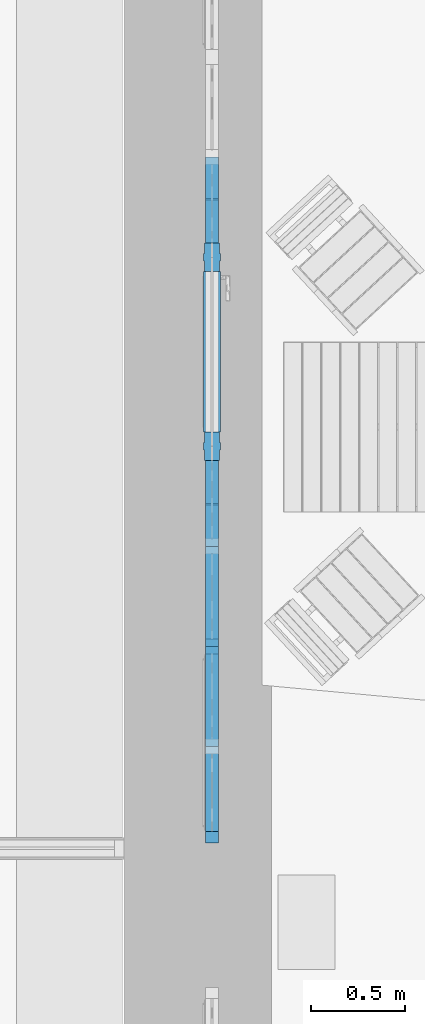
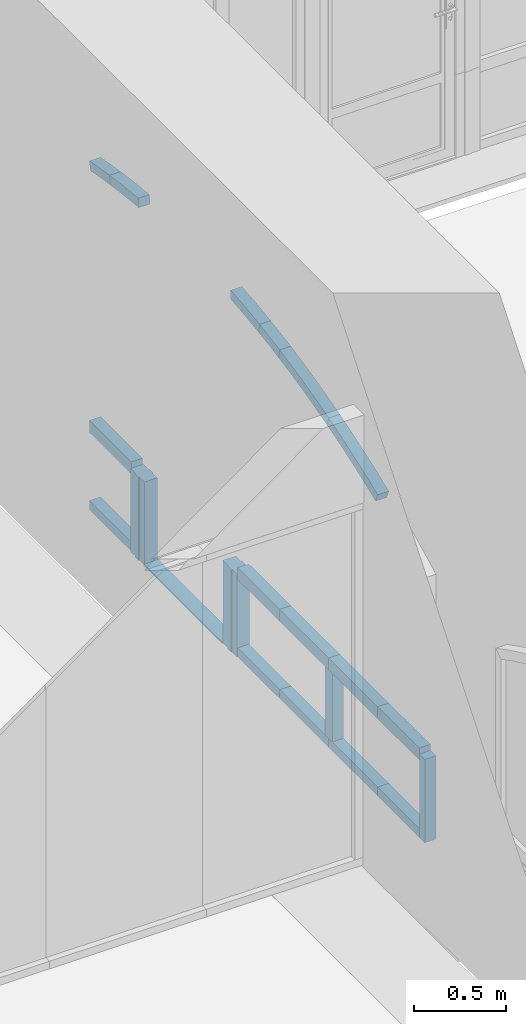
# One storey, part 46 of 88: 21 members, 1 element without a shape of its own.
"""IFC2X3 building model written with IfcOpenShell, lengths in millimetres."""

from ifc_helpers import new_model, entity, si_unit, converted_unit, derived_unit, direction, frame, frame_2d, origin, place, context, subcontext, project, spatial, polyline, circle_curve, parameter, trimmed, segment, composite_curve, rectangle, outline, extrude, source, transform, mapped, material, type_object, type_shapes, element, aggregate, save


model = new_model("IFC2X3")

# Units and contexts
model_context = context("Model", 3, precision=0.01, world=origin(), true_north=direction((6.123031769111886e-17, 1.0)))
body_context = subcontext(model_context, "Body", "Model", "MODEL_VIEW")
ifc_project = project(units=[si_unit("LENGTHUNIT", "METRE", prefix="MILLI"), si_unit("AREAUNIT", "SQUARE_METRE"), si_unit("VOLUMEUNIT", "CUBIC_METRE"), converted_unit("PLANEANGLEUNIT", "DEGREE", entity("IfcPlaneAngleMeasure", 0.017453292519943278), si_unit("PLANEANGLEUNIT", "RADIAN"), dimensions=[0, 0, 0, 0, 0, 0, 0]), si_unit("MASSUNIT", "GRAM", prefix="KILO"), derived_unit("MASSDENSITYUNIT", [(si_unit("MASSUNIT", "GRAM", prefix="KILO"), 1), (si_unit("LENGTHUNIT", "METRE"), -3)]), derived_unit("IONCONCENTRATIONUNIT", [(si_unit("MASSUNIT", "GRAM", prefix="KILO"), 1), (si_unit("LENGTHUNIT", "METRE"), -3)]), derived_unit("MOMENTOFINERTIAUNIT", [(si_unit("LENGTHUNIT", "METRE"), 4)]), si_unit("TIMEUNIT", "SECOND"), si_unit("FREQUENCYUNIT", "HERTZ"), si_unit("THERMODYNAMICTEMPERATUREUNIT", "DEGREE_CELSIUS"), derived_unit("THERMALTRANSMITTANCEUNIT", [(si_unit("MASSUNIT", "GRAM", prefix="KILO"), 1), (si_unit("THERMODYNAMICTEMPERATUREUNIT", "KELVIN"), -1), (si_unit("TIMEUNIT", "SECOND"), -3)]), derived_unit("THERMALCONDUCTANCEUNIT", [(si_unit("MASSUNIT", "GRAM", prefix="KILO"), 1), (si_unit("THERMODYNAMICTEMPERATUREUNIT", "KELVIN"), -1), (si_unit("TIMEUNIT", "SECOND"), -3), (si_unit("LENGTHUNIT", "METRE"), 1)]), derived_unit("VOLUMETRICFLOWRATEUNIT", [(si_unit("LENGTHUNIT", "METRE", prefix="DECI"), 3), (si_unit("TIMEUNIT", "SECOND"), -1)]), derived_unit("MASSFLOWRATEUNIT", [(si_unit("MASSUNIT", "GRAM", prefix="KILO"), 1), (si_unit("TIMEUNIT", "SECOND"), -1)]), derived_unit("ROTATIONALFREQUENCYUNIT", [(si_unit("TIMEUNIT", "SECOND"), -1)]), si_unit("ELECTRICCURRENTUNIT", "AMPERE"), si_unit("ELECTRICVOLTAGEUNIT", "VOLT"), si_unit("POWERUNIT", "WATT"), si_unit("FORCEUNIT", "NEWTON", prefix="KILO"), si_unit("ILLUMINANCEUNIT", "LUX"), si_unit("LUMINOUSFLUXUNIT", "LUMEN"), si_unit("LUMINOUSINTENSITYUNIT", "CANDELA"), si_unit("ENERGYUNIT", "JOULE"), derived_unit("USERDEFINED", [(si_unit("MASSUNIT", "GRAM", prefix="KILO"), -1), (si_unit("LENGTHUNIT", "METRE"), -2), (si_unit("TIMEUNIT", "SECOND"), 3), (si_unit("LUMINOUSFLUXUNIT", "LUMEN"), 1)]), derived_unit("USERDEFINED", [(si_unit("MASSUNIT", "GRAM", prefix="KILO"), 1), (si_unit("TIMEUNIT", "SECOND"), -3), (si_unit("LENGTHUNIT", "METRE"), 3), (si_unit("ELECTRICCURRENTUNIT", "AMPERE"), -2)]), derived_unit("SOUNDPOWERUNIT", [(si_unit("MASSUNIT", "GRAM", prefix="KILO"), 1), (si_unit("TIMEUNIT", "SECOND"), -3), (si_unit("LENGTHUNIT", "METRE"), 2)]), derived_unit("SOUNDPRESSUREUNIT", [(si_unit("MASSUNIT", "GRAM", prefix="KILO"), 1), (si_unit("LENGTHUNIT", "METRE"), -1), (si_unit("TIMEUNIT", "SECOND"), -2)]), derived_unit("LINEARVELOCITYUNIT", [(si_unit("LENGTHUNIT", "METRE"), 1), (si_unit("TIMEUNIT", "SECOND"), -1)]), si_unit("PRESSUREUNIT", "PASCAL"), derived_unit("USERDEFINED", [(si_unit("MASSUNIT", "GRAM", prefix="KILO"), 1), (si_unit("LENGTHUNIT", "METRE"), -2), (si_unit("TIMEUNIT", "SECOND"), -2)]), derived_unit("LINEARFORCEUNIT", [(si_unit("MASSUNIT", "GRAM", prefix="KILO"), 1), (si_unit("TIMEUNIT", "SECOND"), -2)]), derived_unit("PLANARFORCEUNIT", [(si_unit("MASSUNIT", "GRAM", prefix="KILO"), 1), (si_unit("LENGTHUNIT", "METRE"), -1), (si_unit("TIMEUNIT", "SECOND"), -2)]), derived_unit("SPECIFICHEATCAPACITYUNIT", [(si_unit("THERMODYNAMICTEMPERATUREUNIT", "KELVIN"), -1), (si_unit("LENGTHUNIT", "METRE"), 2), (si_unit("TIMEUNIT", "SECOND"), -2)]), derived_unit("HEATFLUXDENSITYUNIT", [(si_unit("MASSUNIT", "GRAM", prefix="KILO"), 1), (si_unit("TIMEUNIT", "SECOND"), -3)]), derived_unit("HEATINGVALUEUNIT", [(si_unit("LENGTHUNIT", "METRE"), 2), (si_unit("TIMEUNIT", "SECOND"), -2)]), derived_unit("VAPORPERMEABILITYUNIT", [(si_unit("LENGTHUNIT", "METRE"), -1), (si_unit("TIMEUNIT", "SECOND"), 1)]), derived_unit("DYNAMICVISCOSITYUNIT", [(si_unit("MASSUNIT", "GRAM", prefix="KILO"), 1), (si_unit("TIMEUNIT", "SECOND"), -1), (si_unit("LENGTHUNIT", "METRE"), -1)]), derived_unit("THERMALEXPANSIONCOEFFICIENTUNIT", [(si_unit("THERMODYNAMICTEMPERATUREUNIT", "KELVIN"), -1)]), derived_unit("MODULUSOFELASTICITYUNIT", [(si_unit("MASSUNIT", "GRAM", prefix="KILO"), 1), (si_unit("LENGTHUNIT", "METRE"), -1), (si_unit("TIMEUNIT", "SECOND"), -2)]), derived_unit("ISOTHERMALMOISTURECAPACITYUNIT", [(si_unit("MASSUNIT", "GRAM", prefix="KILO"), -1), (si_unit("LENGTHUNIT", "METRE"), 3)]), derived_unit("MOISTUREDIFFUSIVITYUNIT", [(si_unit("TIMEUNIT", "SECOND"), -1), (si_unit("LENGTHUNIT", "METRE"), 2)]), derived_unit("MASSPERLENGTHUNIT", [(si_unit("MASSUNIT", "GRAM", prefix="KILO"), 1), (si_unit("LENGTHUNIT", "METRE"), -1)]), derived_unit("THERMALRESISTANCEUNIT", [(si_unit("MASSUNIT", "GRAM", prefix="KILO"), -1), (si_unit("TIMEUNIT", "SECOND"), 3), (si_unit("THERMODYNAMICTEMPERATUREUNIT", "KELVIN"), 1)]), derived_unit("ACCELERATIONUNIT", [(si_unit("LENGTHUNIT", "METRE"), 1), (si_unit("TIMEUNIT", "SECOND"), -2)]), derived_unit("ANGULARVELOCITYUNIT", [(si_unit("TIMEUNIT", "SECOND"), -1), (si_unit("PLANEANGLEUNIT", "RADIAN"), 1)]), derived_unit("LINEARSTIFFNESSUNIT", [(si_unit("MASSUNIT", "GRAM", prefix="KILO"), 1), (si_unit("TIMEUNIT", "SECOND"), -2)]), derived_unit("WARPINGCONSTANTUNIT", [(si_unit("LENGTHUNIT", "METRE"), 6)]), derived_unit("LINEARMOMENTUNIT", [(si_unit("MASSUNIT", "GRAM", prefix="KILO"), 1), (si_unit("LENGTHUNIT", "METRE"), 1), (si_unit("TIMEUNIT", "SECOND"), -2)]), derived_unit("TORQUEUNIT", [(si_unit("MASSUNIT", "GRAM", prefix="KILO"), 1), (si_unit("LENGTHUNIT", "METRE"), 2), (si_unit("TIMEUNIT", "SECOND"), -2)])], contexts=[model_context])

# Site, building, storey
site_placement = place(None, origin())
site = spatial("IfcSite", under=ifc_project, at=site_placement, Name="Default", CompositionType="ELEMENT")
building_placement = place(site_placement, origin())
building = spatial("IfcBuilding", under=site, at=building_placement, Name="Eesti Rahvusraamatukogu hoone renoveerimise projekteerimistööd", CompositionType="ELEMENT")
storey_placement = place(building_placement, origin())
storey = spatial("IfcBuildingStorey", under=building, at=storey_placement, Name="1. korrus", CompositionType="ELEMENT", Elevation=0.0)

# Curtain wall, members
curtain_wall_type = type_object("IfcCurtainWallType", Name="Curtain Wall:Ak-05", PredefinedType="NOTDEFINED")
curtain_wall_placement = place(storey_placement, origin())
curtain_wall = element("IfcCurtainWall", 1, at=curtain_wall_placement, inside=storey, type_object=curtain_wall_type, Name="Curtain Wall:Ak-05", ObjectType="Curtain Wall:Ak-05")
ifc_material_1 = material(Name="LUMION_dark steel window frames")
member_type_1 = type_object("IfcMemberType", Name="Rectangular Mullion:NEW 60x70mm", PredefinedType="MULLION", material=ifc_material_1)
shared_shape_1 = source(origin(), body_context, "Body", "SweptSolid", [
    extrude(outline(composite_curve([segment(polyline([(-44.19959331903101, -278.92780712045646), (15.800406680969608, -278.9278071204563)]), True, "CONTINUOUS"), segment(trimmed(circle_curve(frame_2d((5479.080973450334, -278.9278071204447), x_axis=(-0.9948301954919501, 0.10155236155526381)), 5463.280566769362), [parameter(3.5622212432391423e-13)], [parameter(5.828569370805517)], True, "PARAMETER"), False, "CONTINUOUS"), segment(polyline([(44.04449918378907, 275.8812362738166), (-15.645312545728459, 281.97437796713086)]), True, "CONTINUOUS"), segment(trimmed(circle_curve(frame_2d((5479.080973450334, -278.9278071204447), x_axis=(-0.9948301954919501, 0.10155236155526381)), 5523.280566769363), [parameter(3.5622212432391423e-13)], [parameter(5.828569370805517)], True, "PARAMETER"), True, "CONTINUOUS")], self_intersect=False)), frame((-44.19959331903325, -35.0, -278.9278071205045), z_axis=(0.0, 1.0, 0.0), x_axis=(-0.9948301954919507, 0.0, 0.10155236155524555)), (0.0, 0.0, 1.0), 69.99999999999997),
])
type_shapes(member_type_1, [shared_shape_1])
member_1_placement = place(curtain_wall_placement, frame((-42905.0, 49300.0, 1939.3047106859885), z_axis=(0.0, -0.9256428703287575, -0.3783983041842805), x_axis=(0.0, -0.3783983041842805, 0.9256428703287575)))
member_1 = element("IfcMember", 2, at=member_1_placement, type_object=member_type_1, material=ifc_material_1, Name="Rectangular Mullion:NEW 60x70mm", ObjectType="Rectangular Mullion:NEW 60x70mm", context=body_context, shape_type="MappedRepresentation", body=[
    mapped(shared_shape_1, transform((0.0, 0.0, 0.0), scale=1.0)),
])
member_type_2 = type_object("IfcMemberType", Name="Rectangular Mullion:NEW 60x70mm", PredefinedType="MULLION", material=ifc_material_1)
shared_shape_2 = source(origin(), body_context, "Body", "SweptSolid", [
    extrude(outline(composite_curve([segment(polyline([(-43.38278695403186, -270.80676601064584), (16.61721304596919, -270.80676601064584)]), True, "CONTINUOUS"), segment(trimmed(circle_curve(frame_2d((5479.897779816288, -270.80676601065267), x_axis=(-0.9951275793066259, 0.09859564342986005)), 5463.280566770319), [parameter(3.5622212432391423e-13)], [parameter(5.658307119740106)], True, "PARAMETER"), False, "CONTINUOUS"), segment(polyline([(43.23661433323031, 267.8488967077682), (-16.471040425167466, 273.7646353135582)]), True, "CONTINUOUS"), segment(trimmed(circle_curve(frame_2d((5479.897779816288, -270.80676601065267), x_axis=(-0.9951275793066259, 0.09859564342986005)), 5523.280566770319), [parameter(3.5622212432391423e-13)], [parameter(5.658307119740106)], True, "PARAMETER"), True, "CONTINUOUS")], self_intersect=False)), frame((-43.382786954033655, -35.0, -270.8067660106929), z_axis=(0.0, 1.0, 0.0), x_axis=(-0.9951275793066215, 0.0, 0.09859564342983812)), (0.0, 0.0, 1.0), 69.99999999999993),
])
type_shapes(member_type_2, [shared_shape_2])
member_2_placement = place(curtain_wall_placement, frame((-42905.0, 49830.0, 2125.118079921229), z_axis=(0.0, -0.9592847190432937, -0.2824408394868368), x_axis=(0.0, -0.2824408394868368, 0.9592847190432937)))
member_2 = element("IfcMember", 3, at=member_2_placement, type_object=member_type_2, material=ifc_material_1, Name="Rectangular Mullion:NEW 60x70mm", ObjectType="Rectangular Mullion:NEW 60x70mm", context=body_context, shape_type="MappedRepresentation", body=[
    mapped(shared_shape_2, transform((0.0, 0.0, 0.0), scale=1.0)),
])
member_type_3 = type_object("IfcMemberType", Name="Rectangular Mullion:NEW 60x70mm", PredefinedType="MULLION", material=ifc_material_1)
shared_shape_3 = source(origin(), body_context, "Body", "SweptSolid", [
    extrude(outline(composite_curve([segment(polyline([(-32.20246871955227, -109.97239538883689), (27.79753128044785, -109.97239538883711)]), True, "CONTINUOUS"), segment(trimmed(circle_curve(frame_2d((5491.078098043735, -109.97239538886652), x_axis=(-0.9991981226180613, 0.040038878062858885)), 5463.280566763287), [parameter(3.5622212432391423e-13)], [parameter(2.2946721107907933)], True, "PARAMETER"), False, "CONTINUOUS"), segment(polyline([(32.17841239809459, 108.77122904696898), (-27.7734749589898, 111.17356173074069)]), True, "CONTINUOUS"), segment(trimmed(circle_curve(frame_2d((5491.078098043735, -109.97239538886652), x_axis=(-0.9991981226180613, 0.040038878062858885)), 5523.280566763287), [parameter(3.5622212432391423e-13)], [parameter(2.2946721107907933)], True, "PARAMETER"), True, "CONTINUOUS")], self_intersect=False)), frame((-32.202468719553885, -35.0, -109.9723953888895), z_axis=(0.0, 1.0, 0.0), x_axis=(-0.9991981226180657, 0.0, 0.04003887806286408)), (0.0, 0.0, 1.0), 69.99999999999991),
])
type_shapes(member_type_3, [shared_shape_3])
member_3_placement = place(curtain_wall_placement, frame((-42905.0, 50360.0, 2253.111256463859), z_axis=(0.0, -0.982458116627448, -0.18648337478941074), x_axis=(0.0, -0.18648337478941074, 0.982458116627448)))
member_3 = element("IfcMember", 4, at=member_3_placement, type_object=member_type_3, material=ifc_material_1, Name="Rectangular Mullion:NEW 60x70mm", ObjectType="Rectangular Mullion:NEW 60x70mm", context=body_context, shape_type="MappedRepresentation", body=[
    mapped(shared_shape_3, transform((0.0, 0.0, 0.0), scale=1.0)),
])
member_type_4 = type_object("IfcMemberType", Name="Rectangular Mullion:NEW 60x70mm", PredefinedType="MULLION", material=ifc_material_1)
shared_shape_4 = source(origin(), body_context, "Body", "SweptSolid", [
    extrude(outline(composite_curve([segment(polyline([(-34.44225079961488, -156.14991642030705), (25.5577492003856, -156.14991642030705)]), True, "CONTINUOUS"), segment(trimmed(circle_curve(frame_2d((5488.8383159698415, -156.14991642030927), x_axis=(-0.9983826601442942, 0.05685124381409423)), 5463.280566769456), [parameter(3.5622212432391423e-13)], [parameter(3.2590935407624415)], True, "PARAMETER"), False, "CONTINUOUS"), segment(polyline([(34.393730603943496, 154.44437910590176), (-25.509229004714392, 157.8554537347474)]), True, "CONTINUOUS"), segment(trimmed(circle_curve(frame_2d((5488.8383159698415, -156.14991642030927), x_axis=(-0.9983826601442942, 0.05685124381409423)), 5523.280566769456), [parameter(3.5622212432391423e-13)], [parameter(3.2590935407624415)], True, "PARAMETER"), True, "CONTINUOUS")], self_intersect=False)), frame((-34.44225079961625, -35.0, -156.14991642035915), z_axis=(0.0, 1.0, 0.0), x_axis=(-0.9983826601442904, 0.0, 0.056851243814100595)), (0.0, 0.0, 1.0), 69.99999999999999),
])
type_shapes(member_type_4, [shared_shape_4])
member_4_placement = place(curtain_wall_placement, frame((-42905.0, 51890.0, 2327.3219656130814), z_axis=(0.0, -0.9958941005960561, 0.09052591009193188), x_axis=(0.0, 0.09052591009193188, 0.9958941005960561)))
member_4 = element("IfcMember", 5, at=member_4_placement, type_object=member_type_4, material=ifc_material_1, Name="Rectangular Mullion:NEW 60x70mm", ObjectType="Rectangular Mullion:NEW 60x70mm", context=body_context, shape_type="MappedRepresentation", body=[
    mapped(shared_shape_4, transform((0.0, 0.0, 0.0), scale=1.0)),
])
member_type_5 = type_object("IfcMemberType", Name="Rectangular Mullion:NEW 150x90mm", PredefinedType="MULLION", material=ifc_material_1)
shared_shape_5 = source(origin(), body_context, "Body", "SweptSolid", [
    extrude(outline(polyline([(40.0, -20.0), (45.0, -20.0), (45.0, 20.0), (40.0, 20.0), (40.0, 75.0), (-40.0, 75.0), (-40.0, 20.0), (-45.0, 20.0), (-45.0, -20.0), (-40.0, -20.0), (-40.0, -75.0), (40.0, -75.0), (40.0, -20.0)])), frame((0.0, 0.0, -550.0), z_axis=(0.0, 0.0, 1.0), x_axis=(0.0, -1.0, 0.0)), (0.0, 0.0, 1.0), 550.0000000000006),
])
type_shapes(member_type_5, [shared_shape_5])
member_5_placement = place(curtain_wall_placement, frame((-42905.0, 51890.0, -50.0), z_axis=(0.0, 0.0, -1.0), x_axis=(0.0, -1.0, 0.0)))
member_5 = element("IfcMember", 6, at=member_5_placement, type_object=member_type_5, material=ifc_material_1, Name="Rectangular Mullion:NEW 150x90mm", ObjectType="Rectangular Mullion:NEW 150x90mm", context=body_context, shape_type="MappedRepresentation", body=[
    mapped(shared_shape_5, transform((0.0, 0.0, 0.0), scale=1.0)),
])
member_6_placement = place(curtain_wall_placement, frame((-42905.0, 50890.0, -50.0), z_axis=(0.0, 0.0, -1.0), x_axis=(0.0, -1.0, 0.0)))
member_6 = element("IfcMember", 7, at=member_6_placement, type_object=member_type_5, material=ifc_material_1, Name="Rectangular Mullion:NEW 150x90mm", ObjectType="Rectangular Mullion:NEW 150x90mm", context=body_context, shape_type="MappedRepresentation", body=[
    mapped(shared_shape_5, transform((0.0, 0.0, 0.0), scale=1.0)),
])
member_type_6 = type_object("IfcMemberType", Name="Rectangular Mullion:NEW 80x70mm", PredefinedType="MULLION", material=ifc_material_1)
shared_shape_6 = source(origin(), body_context, "Body", "SweptSolid", [
    extrude(rectangle(XDim=80.0, YDim=70.0, at=frame_2d((0.0, -3.552713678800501e-15), x_axis=(1.0, 0.0))), frame((0.0, 0.0, -450.0), z_axis=(0.0, 0.0, 1.0), x_axis=(-1.0, 0.0, 0.0)), (0.0, 0.0, 1.0), 449.9999999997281),
])
type_shapes(member_type_6, [shared_shape_6])
member_7_placement = place(curtain_wall_placement, frame((-42905.0, 48850.0, 500.0), z_axis=(0.0, -1.0, 0.0), x_axis=(0.0, 0.0, 1.0)))
member_7 = element("IfcMember", 8, at=member_7_placement, type_object=member_type_6, material=ifc_material_1, Name="Rectangular Mullion:NEW 80x70mm", ObjectType="Rectangular Mullion:NEW 80x70mm", context=body_context, shape_type="MappedRepresentation", body=[
    mapped(shared_shape_6, transform((0.0, 0.0, 0.0), scale=1.0)),
])
member_type_7 = type_object("IfcMemberType", Name="Rectangular Mullion:NEW 80x70mm", PredefinedType="MULLION", material=ifc_material_1)
shared_shape_7 = source(origin(), body_context, "Body", "SweptSolid", [
    extrude(rectangle(XDim=80.0, YDim=70.0, at=frame_2d((0.0, -3.552713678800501e-15), x_axis=(1.0, 0.0))), frame((0.0, 0.0, -530.0), z_axis=(0.0, 0.0, 1.0), x_axis=(-1.0, 0.0, 0.0)), (0.0, 0.0, 1.0), 530.0000000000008),
])
type_shapes(member_type_7, [shared_shape_7])
member_8_placement = place(curtain_wall_placement, frame((-42905.0, 49300.0, 500.0), z_axis=(0.0, -1.0, 0.0), x_axis=(0.0, 0.0, 1.0)))
member_8 = element("IfcMember", 9, at=member_8_placement, type_object=member_type_7, material=ifc_material_1, Name="Rectangular Mullion:NEW 80x70mm", ObjectType="Rectangular Mullion:NEW 80x70mm", context=body_context, shape_type="MappedRepresentation", body=[
    mapped(shared_shape_7, transform((0.0, 0.0, 0.0), scale=1.0)),
])
member_9_placement = place(curtain_wall_placement, frame((-42905.0, 49830.0, 500.0), z_axis=(0.0, -1.0, 0.0), x_axis=(0.0, 0.0, 1.0)))
member_9 = element("IfcMember", 10, at=member_9_placement, type_object=member_type_7, material=ifc_material_1, Name="Rectangular Mullion:NEW 80x70mm", ObjectType="Rectangular Mullion:NEW 80x70mm", context=body_context, shape_type="MappedRepresentation", body=[
    mapped(shared_shape_7, transform((0.0, 0.0, 0.0), scale=1.0)),
])
member_type_8 = type_object("IfcMemberType", Name="Rectangular Mullion:NEW 80x70mm", PredefinedType="MULLION", material=ifc_material_1)
shared_shape_8 = source(origin(), body_context, "Body", "SweptSolid", [
    extrude(rectangle(XDim=80.0, YDim=70.0, at=frame_2d((0.0, -3.552713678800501e-15), x_axis=(1.0, 0.0))), frame((0.0, 0.0, -455.0), z_axis=(0.0, 0.0, 1.0), x_axis=(-1.0, 0.0, 0.0)), (0.0, 0.0, 1.0), 455.0000000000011),
])
type_shapes(member_type_8, [shared_shape_8])
member_10_placement = place(curtain_wall_placement, frame((-42905.0, 51965.0, 500.0), z_axis=(0.0, -1.0, 0.0), x_axis=(0.0, 0.0, 1.0)))
member_10 = element("IfcMember", 11, at=member_10_placement, type_object=member_type_8, material=ifc_material_1, Name="Rectangular Mullion:NEW 80x70mm", ObjectType="Rectangular Mullion:NEW 80x70mm", context=body_context, shape_type="MappedRepresentation", body=[
    mapped(shared_shape_8, transform((0.0, 0.0, 0.0), scale=1.0)),
])
member_type_9 = type_object("IfcMemberType", Name="Rectangular Mullion:NEW 80x70mm", PredefinedType="MULLION", material=ifc_material_1)
shared_shape_9 = source(origin(), body_context, "Body", "SweptSolid", [
    extrude(rectangle(XDim=80.0, YDim=70.0, at=frame_2d((0.0, -3.552713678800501e-15), x_axis=(1.0, 0.0))), frame((0.0, 0.0, -455.0), z_axis=(0.0, 0.0, 1.0), x_axis=(-1.0, 0.0, 0.0)), (0.0, 0.0, 1.0), 455.0000000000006),
])
type_shapes(member_type_9, [shared_shape_9])
member_11_placement = place(curtain_wall_placement, frame((-42905.0, 50360.0, 500.0), z_axis=(0.0, -1.0, 0.0), x_axis=(0.0, 0.0, 1.0)))
member_11 = element("IfcMember", 12, at=member_11_placement, type_object=member_type_9, material=ifc_material_1, Name="Rectangular Mullion:NEW 80x70mm", ObjectType="Rectangular Mullion:NEW 80x70mm", context=body_context, shape_type="MappedRepresentation", body=[
    mapped(shared_shape_9, transform((0.0, 0.0, 0.0), scale=1.0)),
])
member_type_10 = type_object("IfcMemberType", Name="Rectangular Mullion:NEW 80x70mm", PredefinedType="MULLION", material=ifc_material_1)
shared_shape_10 = source(origin(), body_context, "Body", "SweptSolid", [
    extrude(rectangle(XDim=80.0, YDim=70.0, at=frame_2d((0.0, 3.552713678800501e-15), x_axis=(1.0, 0.0))), frame((0.0, 0.0, -450.0), z_axis=(0.0, 0.0, 1.0), x_axis=(-1.0, 0.0, 0.0)), (0.0, 0.0, 1.0), 450.00000000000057),
])
type_shapes(member_type_10, [shared_shape_10])
member_12_placement = place(curtain_wall_placement, frame((-42905.0, 49830.0, 10.0), z_axis=(0.0, 0.0, -1.0), x_axis=(0.0, -1.0, 0.0)))
member_12 = element("IfcMember", 13, at=member_12_placement, type_object=member_type_10, material=ifc_material_1, Name="Rectangular Mullion:NEW 80x70mm", ObjectType="Rectangular Mullion:NEW 80x70mm", context=body_context, shape_type="MappedRepresentation", body=[
    mapped(shared_shape_10, transform((0.0, 0.0, 0.0), scale=1.0)),
])
member_type_11 = type_object("IfcMemberType", Name="Rectangular Mullion:NEW 60x70mm", PredefinedType="MULLION", material=ifc_material_1)
shared_shape_11 = source(origin(), body_context, "Body", "SweptSolid", [
    extrude(rectangle(XDim=60.0, YDim=70.0, at=frame_2d((0.0, 3.552713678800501e-15), x_axis=(1.0, 0.0))), frame((-30.0, 0.0, -550.0), z_axis=(0.0, 0.0, 1.0), x_axis=(-1.0, 0.0, 0.0)), (0.0, 0.0, 1.0), 550.0000000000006),
])
type_shapes(member_type_11, [shared_shape_11])
member_13_placement = place(curtain_wall_placement, frame((-42905.0, 48790.0, -50.0), z_axis=(0.0, 0.0, -1.0), x_axis=(0.0, -1.0, 0.0)))
member_13 = element("IfcMember", 14, at=member_13_placement, type_object=member_type_11, material=ifc_material_1, Name="Rectangular Mullion:NEW 60x70mm", ObjectType="Rectangular Mullion:NEW 60x70mm", context=body_context, shape_type="MappedRepresentation", body=[
    mapped(shared_shape_11, transform((0.0, 0.0, 0.0), scale=1.0)),
])
member_type_12 = type_object("IfcMemberType", Name="Rectangular Mullion:NEW 60x70mm", PredefinedType="MULLION", material=ifc_material_1)
shared_shape_12 = source(origin(), body_context, "Body", "SweptSolid", [
    extrude(rectangle(XDim=60.0, YDim=70.0, at=frame_2d((0.0, 3.552713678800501e-15), x_axis=(1.0, 0.0))), frame((-30.0, 0.0, -450.0), z_axis=(0.0, 0.0, 1.0), x_axis=(-1.0, 0.0, 0.0)), (0.0, 0.0, 1.0), 449.9999999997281),
])
type_shapes(member_type_12, [shared_shape_12])
member_14_placement = place(curtain_wall_placement, frame((-42905.0, 49300.0, -50.0), z_axis=(0.0, 1.0, 0.0), x_axis=(0.0, 0.0, -1.0)))
member_14 = element("IfcMember", 15, at=member_14_placement, type_object=member_type_12, material=ifc_material_1, Name="Rectangular Mullion:NEW 60x70mm", ObjectType="Rectangular Mullion:NEW 60x70mm", context=body_context, shape_type="MappedRepresentation", body=[
    mapped(shared_shape_12, transform((0.0, 0.0, 0.0), scale=1.0)),
])
member_type_13 = type_object("IfcMemberType", Name="Rectangular Mullion:NEW 60x70mm", PredefinedType="MULLION", material=ifc_material_1)
shared_shape_13 = source(origin(), body_context, "Body", "SweptSolid", [
    extrude(rectangle(XDim=60.0, YDim=70.0, at=frame_2d((0.0, 3.552713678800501e-15), x_axis=(1.0, 0.0))), frame((-30.0, 0.0, -530.0), z_axis=(0.0, 0.0, 1.0), x_axis=(-1.0, 0.0, 0.0)), (0.0, 0.0, 1.0), 530.0000000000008),
])
type_shapes(member_type_13, [shared_shape_13])
member_15_placement = place(curtain_wall_placement, frame((-42905.0, 49830.0, -50.0), z_axis=(0.0, 1.0, 0.0), x_axis=(0.0, 0.0, -1.0)))
member_15 = element("IfcMember", 16, at=member_15_placement, type_object=member_type_13, material=ifc_material_1, Name="Rectangular Mullion:NEW 60x70mm", ObjectType="Rectangular Mullion:NEW 60x70mm", context=body_context, shape_type="MappedRepresentation", body=[
    mapped(shared_shape_13, transform((0.0, 0.0, 0.0), scale=1.0)),
])
member_type_14 = type_object("IfcMemberType", Name="Rectangular Mullion:NEW 60x70mm", PredefinedType="MULLION", material=ifc_material_1)
shared_shape_14 = source(origin(), body_context, "Body", "SweptSolid", [
    extrude(rectangle(XDim=60.0, YDim=70.0, at=frame_2d((0.0, 3.552713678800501e-15), x_axis=(1.0, 0.0))), frame((-30.0, 0.0, -530.0), z_axis=(0.0, 0.0, 1.0), x_axis=(-1.0, 0.0, 0.0)), (0.0, 0.0, 1.0), 530.0000000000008),
])
type_shapes(member_type_14, [shared_shape_14])
member_16_placement = place(curtain_wall_placement, frame((-42905.0, 50360.0, -50.0), z_axis=(0.0, 1.0, 0.0), x_axis=(0.0, 0.0, -1.0)))
member_16 = element("IfcMember", 17, at=member_16_placement, type_object=member_type_14, material=ifc_material_1, Name="Rectangular Mullion:NEW 60x70mm", ObjectType="Rectangular Mullion:NEW 60x70mm", context=body_context, shape_type="MappedRepresentation", body=[
    mapped(shared_shape_14, transform((0.0, 0.0, 0.0), scale=1.0)),
])
member_type_15 = type_object("IfcMemberType", Name="Rectangular Mullion:NEW 60x70mm", PredefinedType="MULLION", material=ifc_material_1)
shared_shape_15 = source(origin(), body_context, "Body", "SweptSolid", [
    extrude(rectangle(XDim=60.0, YDim=70.0, at=frame_2d((0.0, 3.552713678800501e-15), x_axis=(1.0, 0.0))), frame((-30.0, 0.0, -455.0), z_axis=(0.0, 0.0, 1.0), x_axis=(-1.0, 0.0, 0.0)), (0.0, 0.0, 1.0), 455.0000000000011),
])
type_shapes(member_type_15, [shared_shape_15])
member_17_placement = place(curtain_wall_placement, frame((-42905.0, 52420.0, -50.0), z_axis=(0.0, 1.0, 0.0), x_axis=(0.0, 0.0, -1.0)))
member_17 = element("IfcMember", 18, at=member_17_placement, type_object=member_type_15, material=ifc_material_1, Name="Rectangular Mullion:NEW 60x70mm", ObjectType="Rectangular Mullion:NEW 60x70mm", context=body_context, shape_type="MappedRepresentation", body=[
    mapped(shared_shape_15, transform((0.0, 0.0, 0.0), scale=1.0)),
])
member_type_16 = type_object("IfcMemberType", Name="Rectangular Mullion:NEW 60x70mm", PredefinedType="MULLION", material=ifc_material_1)
shared_shape_16 = source(origin(), body_context, "Body", "SweptSolid", [
    extrude(rectangle(XDim=60.0, YDim=70.0, at=frame_2d((0.0, 3.552713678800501e-15), x_axis=(1.0, 0.0))), frame((-30.0, 0.0, -455.0), z_axis=(0.0, 0.0, 1.0), x_axis=(-1.0, 0.0, 0.0)), (0.0, 0.0, 1.0), 455.0000000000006),
])
type_shapes(member_type_16, [shared_shape_16])
member_18_placement = place(curtain_wall_placement, frame((-42905.0, 50815.0, -50.0), z_axis=(0.0, 1.0, 0.0), x_axis=(0.0, 0.0, -1.0)))
member_18 = element("IfcMember", 19, at=member_18_placement, type_object=member_type_16, material=ifc_material_1, Name="Rectangular Mullion:NEW 60x70mm", ObjectType="Rectangular Mullion:NEW 60x70mm", context=body_context, shape_type="MappedRepresentation", body=[
    mapped(shared_shape_16, transform((0.0, 0.0, 0.0), scale=1.0)),
])
ifc_material_2 = material(Name="Lumion_aluminium")
member_type_17 = type_object("IfcMemberType", Name="Rectangular Mullion:NEW 10x90mm", PredefinedType="MULLION", material=ifc_material_2)
shared_shape_17 = source(origin(), body_context, "Body", "SweptSolid", [
    extrude(rectangle(XDim=10.0, YDim=90.0, at=frame_2d((0.0, 3.552713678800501e-15), x_axis=(1.0, 0.0))), frame((-5.0, 0.0, -850.0), z_axis=(0.0, 0.0, 1.0), x_axis=(-1.0, 0.0, 0.0)), (0.0, 0.0, 1.0), 849.9999999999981),
])
type_shapes(member_type_17, [shared_shape_17])
member_19_placement = place(curtain_wall_placement, frame((-42905.0, 51815.0, -50.0), z_axis=(0.0, 1.0, 0.0), x_axis=(0.0, 0.0, -1.0)))
member_19 = element("IfcMember", 20, at=member_19_placement, type_object=member_type_17, material=ifc_material_2, Name="Rectangular Mullion:NEW 10x90mm", ObjectType="Rectangular Mullion:NEW 10x90mm", context=body_context, shape_type="MappedRepresentation", body=[
    mapped(shared_shape_17, transform((0.0, 0.0, 0.0), scale=1.0)),
])
member_type_18 = type_object("IfcMemberType", Name="Rectangular Mullion:NEW 60x70mm", PredefinedType="MULLION", material=ifc_material_1)
shared_shape_18 = source(origin(), body_context, "Body", "SweptSolid", [
    extrude(outline(composite_curve([segment(polyline([(-34.44225079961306, -156.14991642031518), (25.55774920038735, -156.14991642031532)]), True, "CONTINUOUS"), segment(trimmed(circle_curve(frame_2d((5488.838315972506, -156.14991642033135), x_axis=(-0.9983826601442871, 0.05685124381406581)), 5463.2805667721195), [parameter(3.5622212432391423e-13)], [parameter(3.2590935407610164)], True, "PARAMETER"), False, "CONTINUOUS"), segment(polyline([(34.393730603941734, 154.44437910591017), (-25.509229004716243, 157.8554537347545)]), True, "CONTINUOUS"), segment(trimmed(circle_curve(frame_2d((5488.838315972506, -156.14991642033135), x_axis=(-0.9983826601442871, 0.05685124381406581)), 5523.2805667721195), [parameter(3.5622212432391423e-13)], [parameter(3.2590935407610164)], True, "PARAMETER"), True, "CONTINUOUS")], self_intersect=False)), frame((-34.44225079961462, -35.0, -156.14991642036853), z_axis=(0.0, 1.0, 0.0), x_axis=(-0.9983826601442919, 0.0, 0.056851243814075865)), (0.0, 0.0, 1.0), 69.99999999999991),
])
type_shapes(member_type_18, [shared_shape_18])
member_20_placement = place(curtain_wall_placement, frame((-42905.0, 50578.09257423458, 2290.0), z_axis=(0.0, -0.9891368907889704, -0.14699731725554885), x_axis=(0.0, -0.14699731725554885, 0.9891368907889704)))
member_20 = element("IfcMember", 21, at=member_20_placement, type_object=member_type_18, material=ifc_material_1, Name="Rectangular Mullion:NEW 60x70mm", ObjectType="Rectangular Mullion:NEW 60x70mm", context=body_context, shape_type="MappedRepresentation", body=[
    mapped(shared_shape_18, transform((0.0, 0.0, 0.0), scale=1.0)),
])
member_type_19 = type_object("IfcMemberType", Name="Rectangular Mullion:NEW 60x70mm", PredefinedType="MULLION", material=ifc_material_1)
shared_shape_19 = source(origin(), body_context, "Body", "SweptSolid", [
    extrude(outline(composite_curve([segment(polyline([(-32.202468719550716, -109.97239538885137), (27.79753128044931, -109.97239538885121)]), True, "CONTINUOUS"), segment(trimmed(circle_curve(frame_2d((5491.078098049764, -109.97239538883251), x_axis=(-0.9991981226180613, 0.04003887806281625)), 5463.280566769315), [parameter(3.5622212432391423e-13)], [parameter(2.294672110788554)], True, "PARAMETER"), False, "CONTINUOUS"), segment(polyline([(32.17841239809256, 108.77122904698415), (-27.773474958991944, 111.17356173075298)]), True, "CONTINUOUS"), segment(trimmed(circle_curve(frame_2d((5491.078098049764, -109.97239538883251), x_axis=(-0.9991981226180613, 0.04003887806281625)), 5523.280566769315), [parameter(3.5622212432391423e-13)], [parameter(2.294672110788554)], True, "PARAMETER"), True, "CONTINUOUS")], self_intersect=False)), frame((-32.202468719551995, -35.0, -109.97239538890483), z_axis=(0.0, 1.0, 0.0), x_axis=(-0.9991981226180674, 0.0, 0.04003887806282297)), (0.0, 0.0, 1.0), 69.99999999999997),
])
type_shapes(member_type_19, [shared_shape_19])
member_21_placement = place(curtain_wall_placement, frame((-42905.0, 52201.907425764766, 2290.0), z_axis=(0.0, -0.9891368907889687, 0.14699731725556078), x_axis=(0.0, 0.14699731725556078, 0.9891368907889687)))
member_21 = element("IfcMember", 22, at=member_21_placement, type_object=member_type_19, material=ifc_material_1, Name="Rectangular Mullion:NEW 60x70mm", ObjectType="Rectangular Mullion:NEW 60x70mm", context=body_context, shape_type="MappedRepresentation", body=[
    mapped(shared_shape_19, transform((0.0, 0.0, 0.0), scale=1.0)),
])
aggregate(curtain_wall, [member_1, member_2, member_3, member_4, member_5, member_6, member_7, member_8, member_9, member_10, member_11, member_12, member_13, member_14, member_15, member_16, member_17, member_18, member_19, member_20, member_21])

save(model, "model.ifc")
